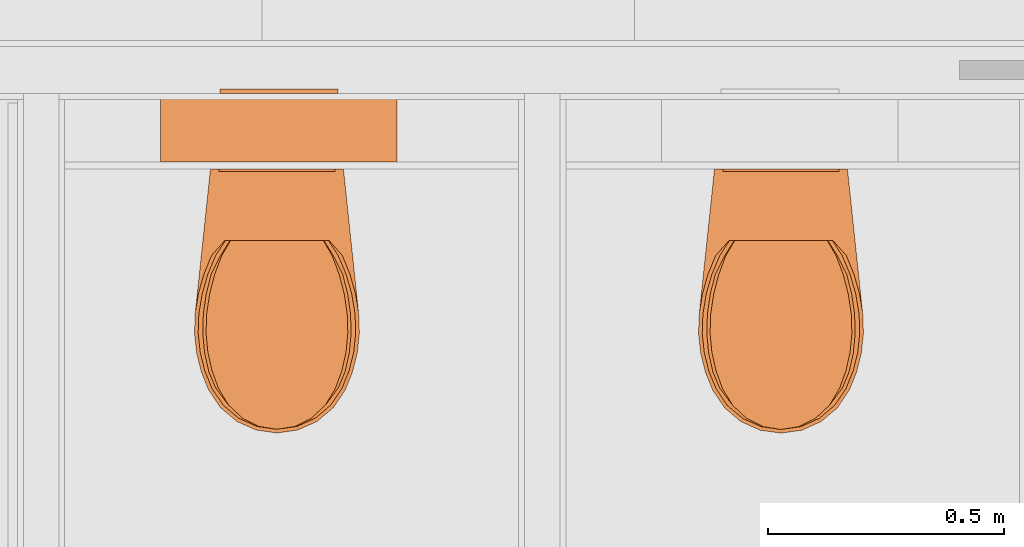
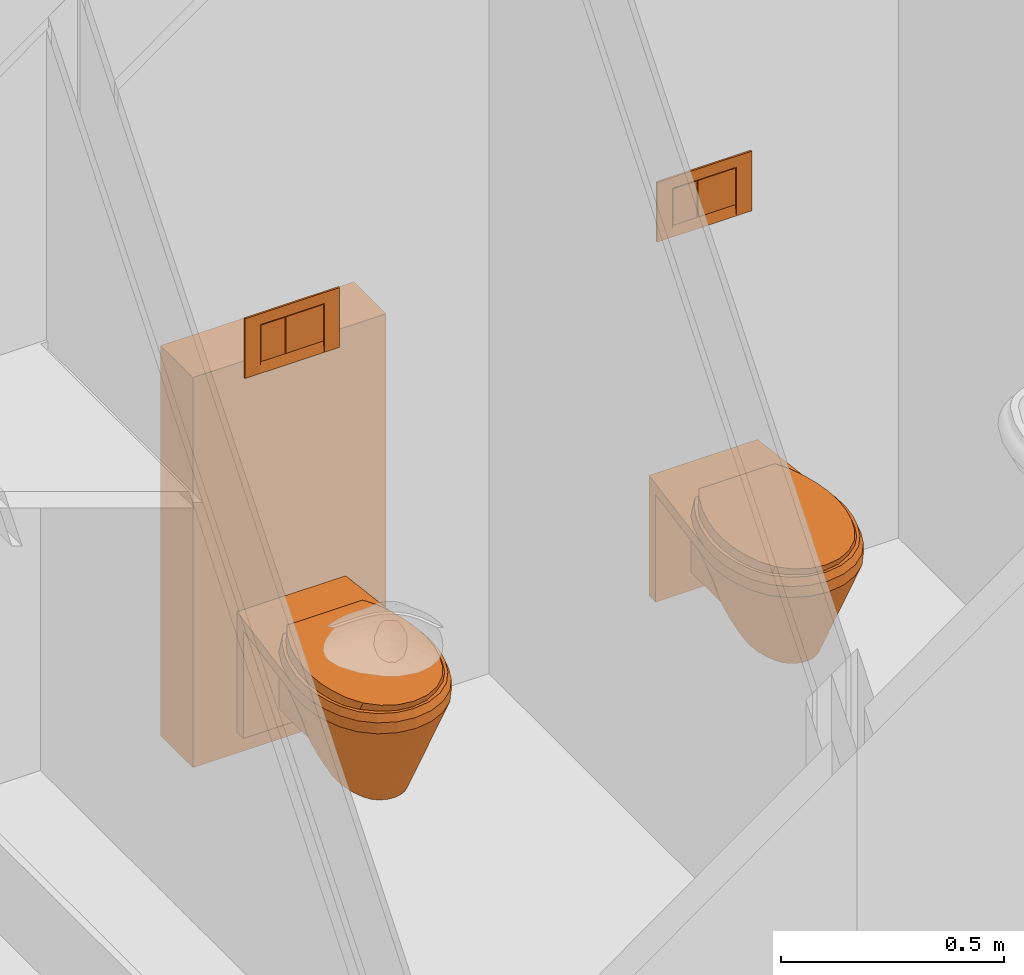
# One storey, part 110 of 167: 3 proxies.
"""IFC2X3 building model written with IfcOpenShell, lengths in millimetres."""

from ifc_helpers import new_model, entity, si_unit, converted_unit, derived_unit, money_unit, direction, frame, origin_with_axes, place, context, subcontext, project, spatial, open_shell, faceted_brep, surface_model, source, transform, mapped, type_object, type_shapes, element, save


model = new_model("IFC2X3")

# Units and contexts
model_context = context("Model", 3, precision=0.01, world=origin_with_axes(), true_north=direction((0.0, 1.0)))
plan_context = context("Plan", 3, precision=0.01, world=origin_with_axes(), true_north=direction((0.0, 1.0)))
body_context = subcontext(model_context, "Body", "Model", "MODEL_VIEW")
ifc_project = project(units=[si_unit("LENGTHUNIT", "METRE", prefix="MILLI"), si_unit("AREAUNIT", "SQUARE_METRE"), si_unit("VOLUMEUNIT", "CUBIC_METRE"), converted_unit("PLANEANGLEUNIT", "DEGREE", entity("IfcPlaneAngleMeasure", 0.0174532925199), si_unit("PLANEANGLEUNIT", "RADIAN"), dimensions=[0, 0, 0, 0, 0, 0, 0]), si_unit("SOLIDANGLEUNIT", "STERADIAN"), money_unit("EUR"), converted_unit("TIMEUNIT", "Year", entity("IfcTimeMeasure", 31556926.0), si_unit("TIMEUNIT", "SECOND"), dimensions=[0, 0, 1, 0, 0, 0, 0]), si_unit("MASSUNIT", "GRAM", prefix="KILO"), si_unit("THERMODYNAMICTEMPERATUREUNIT", "DEGREE_CELSIUS"), si_unit("LUMINOUSINTENSITYUNIT", "LUMEN"), si_unit("ENERGYUNIT", "JOULE", prefix="MEGA"), derived_unit("THERMALCONDUCTANCEUNIT", [(si_unit("POWERUNIT", "WATT"), 1), (si_unit("LENGTHUNIT", "METRE"), -1), (si_unit("THERMODYNAMICTEMPERATUREUNIT", "KELVIN"), -1)]), derived_unit("SPECIFICHEATCAPACITYUNIT", [(si_unit("ENERGYUNIT", "JOULE"), 1), (si_unit("MASSUNIT", "GRAM", prefix="KILO"), -1), (si_unit("THERMODYNAMICTEMPERATUREUNIT", "KELVIN"), -1)]), derived_unit("MASSDENSITYUNIT", [(si_unit("MASSUNIT", "GRAM", prefix="KILO"), 1), (si_unit("VOLUMEUNIT", "CUBIC_METRE"), -1)])], contexts=[model_context, plan_context])

# Site, building, storey
site_placement = place(None, origin_with_axes())
site = spatial("IfcSite", under=ifc_project, at=site_placement, Name="Site", CompositionType="ELEMENT")
building_placement = place(site_placement, origin_with_axes())
building = spatial("IfcBuilding", under=site, at=building_placement, Name="Naam gebouw", CompositionType="ELEMENT")
storey_placement = place(building_placement, origin_with_axes())
storey = spatial("IfcBuildingStorey", under=building, at=storey_placement, Name="Begane grond", CompositionType="ELEMENT", Elevation=0.0)

# Proxies
building_element_proxy_type_1 = type_object("IfcBuildingElementProxyType", Name="Toilet 24", PredefinedType="NOTDEFINED")
shared_shape_1 = source(origin_with_axes(), body_context, "Body", "SurfaceModel", [
    faceted_brep([(-141.028331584, -29.3186537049, 70.0), (-141.028331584, 0.494905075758, 70.0), (141.028331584, 0.494905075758, 70.0), (141.028331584, -29.3186537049, 70.0), (-141.028331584, -29.3186537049, 370.0), (-141.028331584, 0.494905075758, 370.0), (141.028331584, 0.494905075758, 370.0), (141.028331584, -29.3186537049, 370.0)], [[[0, 1, 2, 3]], [[0, 4, 5, 1]], [[1, 5, 6, 2]], [[2, 6, 7, 3]], [[3, 7, 4, 0]], [[7, 6, 5, 4]]]),
    faceted_brep([(0.0, -70.8916738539, 370.0), (29.2232249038, -74.3401088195, 370.0), (48.9681706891, -81.5929972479, 370.0), (48.9681706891, -29.3186537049, 370.0), (-48.9681706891, -29.3186537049, 370.0), (-48.9681706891, -81.5929972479, 370.0), (-29.2232249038, -74.3401088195, 370.0), (0.0, -102.688828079, 120.0), (13.7012941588, -104.950683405, 120.0), (48.9681706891, -88.2509938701, 324.161469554), (48.9681706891, -91.4215326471, 305.928931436), (48.9681706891, -107.087637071, 223.462569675), (48.9681706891, -115.60239829, 192.796015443), (48.9681706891, -121.830119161, 170.496419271), (48.9681706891, -132.92940311, 150.834999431), (48.9681706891, -136.95889879, 141.313409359), (48.9681706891, -162.865413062, 120.0), (48.9681706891, -29.3186537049, 120.0), (-48.9681706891, -29.3186537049, 120.0), (-48.9681706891, -132.92940311, 150.834999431), (-48.9681706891, -128.161443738, 166.474594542), (-48.9681706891, -115.60239829, 192.796015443), (-48.9681706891, -98.3265451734, 277.009109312), (-48.9681706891, -91.4215326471, 305.928931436), (-48.9681706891, -162.865413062, 120.0), (-25.9903462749, -111.50270984, 120.0), (-13.7012941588, -104.950683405, 120.0), (25.9903462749, -111.50270984, 120.0), (35.5988807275, -121.669133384, 120.0), (41.5367611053, -134.401510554, 120.0), (-35.5988807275, -121.669133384, 120.0), (-41.5367611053, -134.401510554, 120.0)], [[[0, 1, 2, 3, 4, 5, 6]], [[0, 7, 1]], [[1, 8, 9, 2]], [[9, 10, 11, 12, 13, 14, 15, 16, 17, 3, 2]], [[4, 3, 17, 18]], [[19, 20, 21, 22, 23, 5, 4, 18, 24]], [[23, 25, 6, 5]], [[6, 26, 0]], [[7, 0, 26]], [[8, 1, 7]], [[27, 10, 9, 8]], [[10, 27, 11]], [[28, 12, 11, 27]], [[12, 28, 13]], [[29, 14, 13, 28]], [[14, 29, 15]], [[16, 15, 29]], [[29, 28, 27, 8, 7, 26, 25, 30, 31, 24, 18, 17, 16]], [[19, 31, 20]], [[20, 31, 30, 21]], [[21, 30, 22]], [[22, 30, 25, 23]], [[24, 31, 19]], [[26, 6, 25]]]),
    surface_model("IfcShellBasedSurfaceModel", [(-17.6912207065, -459.020482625, 120.0), (-85.1820916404, -535.368037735, 370.0), (-34.0279818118, -451.688334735, 120.0), (-44.2868135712, -553.722258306, 370.0), (-119.554809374, -506.343544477, 370.0), (-47.758656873, -440.093841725, 120.0), (-57.8323889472, -425.125447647, 120.0), (-68.2302903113, -399.418209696, 120.0), (-74.9438265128, -372.478677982, 120.0), (-77.8388247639, -344.845484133, 120.0), (-76.8575026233, -317.0761417, 120.0), (-70.9734872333, -270.86512559, 120.0), (-63.1150752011, -224.958207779, 120.0), (-53.2959776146, -179.441847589, 120.0), (-41.5367611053, -134.401510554, 120.0), (-35.5988807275, -121.669133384, 120.0), (-25.9903462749, -111.50270984, 120.0), (-13.7012941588, -104.950683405, 120.0), (0.0, -102.688828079, 120.0), (13.7012941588, -104.950683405, 120.0), (25.9903462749, -111.50270984, 120.0), (35.5988807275, -121.669133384, 120.0), (41.5367611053, -134.401510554, 120.0), (53.2959776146, -179.441847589, 120.0), (63.1150752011, -224.958207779, 120.0), (70.9734872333, -270.86512559, 120.0), (76.8575026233, -317.0761417, 120.0), (77.8388247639, -344.846477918, 120.0), (74.9438265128, -372.478677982, 120.0), (68.2302903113, -399.418209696, 120.0), (57.8323889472, -425.125447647, 120.0), (47.758656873, -440.093841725, 120.0), (34.0279818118, -451.688334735, 120.0), (17.6912207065, -459.020482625, 120.0), (0.0, -461.527802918, 120.0), (-144.773417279, -468.871876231, 370.0), (-160.390346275, -430.260336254, 370.0), (-170.473871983, -389.797374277, 370.0), (-174.82224554, -348.294912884, 370.0), (-173.347324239, -306.584750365, 370.0), (-164.811192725, -257.296974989, 370.0), (-149.839664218, -209.61416286, 370.0), (-128.705001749, -164.398919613, 370.0), (-101.788177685, -122.466149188, 370.0), (-81.512416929, -100.834424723, 370.0), (-56.8863238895, -84.5015634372, 370.0), (-29.2232249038, -74.3401088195, 370.0), (0.0, -70.8916738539, 370.0), (29.2232249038, -74.3401088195, 370.0), (56.8863238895, -84.5015634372, 370.0), (81.512416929, -100.834424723, 370.0), (101.788177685, -122.466149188, 370.0), (128.705001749, -164.398919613, 370.0), (149.839664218, -209.61416286, 370.0), (164.811192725, -257.295981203, 370.0), (173.347324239, -306.584750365, 370.0), (174.82224554, -348.294912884, 370.0), (170.473871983, -389.797374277, 370.0), (160.389366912, -430.260336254, 370.0), (144.773417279, -468.871876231, 370.0), (119.554809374, -506.343544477, 370.0), (85.1820916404, -535.368037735, 370.0), (44.2868135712, -553.722258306, 370.0), (0.0, -560.0, 370.0)], [open_shell([[[0, 1, 2]], [[0, 3, 1]], [[2, 1, 4]], [[0, 2, 5, 6, 7, 8, 9, 10, 11, 12, 13, 14, 15, 16, 17, 18, 19, 20, 21, 22, 23, 24, 25, 26, 27, 28, 29, 30, 31, 32, 33, 34]], [[34, 3, 0]], [[2, 4, 5]], [[5, 35, 6]], [[6, 36, 7]], [[7, 37, 8]], [[8, 38, 9]], [[9, 39, 10]], [[10, 40, 11]], [[11, 41, 12]], [[12, 42, 13]], [[13, 43, 14]], [[14, 44, 15]], [[15, 45, 16]], [[16, 46, 17]], [[17, 47, 18]], [[18, 48, 19]], [[19, 49, 20]], [[20, 50, 21]], [[21, 51, 22]], [[22, 52, 23]], [[23, 53, 24]], [[24, 54, 25]], [[25, 55, 26]], [[26, 56, 27]], [[27, 57, 28]], [[28, 58, 29]], [[29, 59, 30]], [[30, 60, 31]], [[31, 61, 32]], [[32, 62, 33]], [[33, 63, 34]], [[34, 63, 3]], [[5, 4, 35]], [[6, 35, 36]], [[7, 36, 37]], [[8, 37, 38]], [[9, 38, 39]], [[10, 39, 40]], [[11, 40, 41]], [[12, 41, 42]], [[13, 42, 43]], [[14, 43, 44]], [[15, 44, 45]], [[16, 45, 46]], [[17, 46, 47]], [[18, 47, 48]], [[19, 48, 49]], [[20, 49, 50]], [[21, 50, 51]], [[22, 51, 52]], [[23, 52, 53]], [[24, 53, 54]], [[25, 54, 55]], [[26, 55, 56]], [[27, 56, 57]], [[28, 57, 58]], [[29, 58, 59]], [[30, 59, 60]], [[31, 60, 61]], [[32, 61, 62]], [[33, 62, 63]]])]),
    faceted_brep([(173.347324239, -306.584750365, 370.0), (173.347324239, -306.584750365, 400.0), (174.82224554, -348.294912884, 400.0), (174.82224554, -348.294912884, 370.0), (140.973487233, 0.0, 370.0), (140.973487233, 0.0, 400.0), (-140.97544596, 0.0, 400.0), (-173.347324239, -306.584750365, 400.0), (-174.82224554, -348.294912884, 400.0), (-170.473871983, -389.797374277, 400.0), (-160.390346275, -430.260336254, 400.0), (-144.773417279, -468.871876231, 400.0), (-119.554809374, -506.343544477, 400.0), (-85.1820916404, -535.368037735, 400.0), (-44.2868135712, -553.722258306, 400.0), (0.0, -560.0, 400.0), (44.2868135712, -553.722258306, 400.0), (85.1820916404, -535.368037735, 400.0), (119.554809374, -506.343544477, 400.0), (144.773417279, -468.871876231, 400.0), (160.389366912, -430.260336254, 400.0), (170.473871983, -389.797374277, 400.0), (-144.502133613, -309.721136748, 400.0), (-129.388597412, -258.283803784, 400.0), (-97.1352221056, -215.741842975, 400.0), (-52.0130115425, -187.731010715, 400.0), (0.0, -177.963095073, 400.0), (52.0130115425, -187.731010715, 400.0), (97.1352221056, -215.741842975, 400.0), (129.388597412, -258.283803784, 400.0), (144.502133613, -309.721136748, 400.0), (145.829171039, -347.26336375, 400.0), (141.914655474, -384.619752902, 400.0), (132.838894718, -421.039996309, 400.0), (118.78209164, -455.793661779, 400.0), (98.0920601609, -486.538397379, 400.0), (69.8903112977, -510.352474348, 400.0), (36.3363413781, -525.411302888, 400.0), (0.0, -530.56209206, 400.0), (-36.3363413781, -525.411302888, 400.0), (-69.8903112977, -510.352474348, 400.0), (-98.0920601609, -486.538397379, 400.0), (-118.78209164, -455.793661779, 400.0), (-132.838894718, -421.039996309, 400.0), (-141.914655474, -384.619752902, 400.0), (-145.829171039, -347.26336375, 400.0), (170.473871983, -389.797374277, 370.0), (160.389366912, -430.260336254, 370.0), (144.773417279, -468.871876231, 370.0), (119.554809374, -506.343544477, 370.0), (85.1820916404, -535.368037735, 370.0), (44.2868135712, -553.722258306, 370.0), (0.0, -560.0, 370.0), (-44.2868135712, -553.722258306, 370.0), (-85.1820916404, -535.368037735, 370.0), (-119.554809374, -506.343544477, 370.0), (-144.773417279, -468.871876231, 370.0), (-160.390346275, -430.260336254, 370.0), (-170.473871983, -389.797374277, 370.0), (-174.82224554, -348.294912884, 370.0), (-173.347324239, -306.584750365, 370.0), (-140.97544596, 0.0, 370.0), (-144.502133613, -309.721136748, 370.0), (-145.829171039, -347.26336375, 370.0), (-141.914655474, -384.619752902, 370.0), (-132.838894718, -421.039996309, 370.0), (-118.78209164, -455.793661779, 370.0), (-98.0920601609, -486.538397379, 370.0), (-69.8903112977, -510.352474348, 370.0), (-36.3363413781, -525.411302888, 370.0), (0.0, -530.56209206, 370.0), (36.3363413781, -525.411302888, 370.0), (69.8903112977, -510.352474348, 370.0), (98.0920601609, -486.538397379, 370.0), (118.78209164, -455.793661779, 370.0), (132.838894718, -421.039996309, 370.0), (141.914655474, -384.619752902, 370.0), (145.829171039, -347.26336375, 370.0), (144.502133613, -309.721136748, 370.0), (129.388597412, -258.283803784, 370.0), (97.1352221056, -215.741842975, 370.0), (52.0130115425, -187.731010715, 370.0), (0.0, -177.963095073, 370.0), (-52.0130115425, -187.731010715, 370.0), (-97.1352221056, -215.741842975, 370.0), (-129.388597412, -258.283803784, 370.0)], [[[0, 1, 2, 3]], [[4, 5, 1, 0]], [[1, 5, 6, 7, 8, 9, 10, 11, 12, 13, 14, 15, 16, 17, 18, 19, 20, 21, 2], [22, 23, 24, 25, 26, 27, 28, 29, 30, 31, 32, 33, 34, 35, 36, 37, 38, 39, 40, 41, 42, 43, 44, 45]], [[3, 2, 21, 46]], [[0, 3, 46, 47, 48, 49, 50, 51, 52, 53, 54, 55, 56, 57, 58, 59, 60, 61, 4], [62, 63, 64, 65, 66, 67, 68, 69, 70, 71, 72, 73, 74, 75, 76, 77, 78, 79, 80, 81, 82, 83, 84, 85]], [[61, 6, 5, 4]], [[60, 7, 6, 61]], [[59, 8, 7, 60]], [[58, 9, 8, 59]], [[57, 10, 9, 58]], [[56, 11, 10, 57]], [[55, 12, 11, 56]], [[54, 13, 12, 55]], [[53, 14, 13, 54]], [[52, 15, 14, 53]], [[51, 16, 15, 52]], [[50, 17, 16, 51]], [[49, 18, 17, 50]], [[48, 19, 18, 49]], [[47, 20, 19, 48]], [[46, 21, 20, 47]], [[85, 23, 22, 62]], [[84, 24, 23, 85]], [[83, 25, 24, 84]], [[82, 26, 25, 83]], [[81, 27, 26, 82]], [[80, 28, 27, 81]], [[79, 29, 28, 80]], [[78, 30, 29, 79]], [[77, 31, 30, 78]], [[76, 32, 31, 77]], [[75, 33, 32, 76]], [[74, 34, 33, 75]], [[73, 35, 34, 74]], [[72, 36, 35, 73]], [[71, 37, 36, 72]], [[70, 38, 37, 71]], [[69, 39, 38, 70]], [[68, 40, 39, 69]], [[67, 41, 40, 68]], [[66, 42, 41, 67]], [[65, 43, 42, 66]], [[64, 44, 43, 65]], [[63, 45, 44, 64]], [[62, 22, 45, 63]]]),
    surface_model("IfcShellBasedSurfaceModel", [(-16.8066596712, -465.732925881, 220.0), (-80.9229870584, -525.284018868, 370.0), (-32.3265827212, -460.013850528, 220.0), (-42.0724728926, -539.600310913, 370.0), (-113.577068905, -502.644914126, 370.0), (-45.3707240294, -450.97014598, 220.0), (-54.9407694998, -439.294798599, 220.0), (-64.8187757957, -419.243152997, 220.0), (-71.1966351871, -398.23031826, 220.0), (-73.9468835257, -376.676427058, 220.0), (-73.0146274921, -355.01633996, 220.0), (-67.4248128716, -318.971747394, 220.0), (-59.9593214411, -283.164351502, 220.0), (-50.6311787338, -247.661590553, 220.0), (-39.45992305, -212.530127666, 220.0), (-33.8189366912, -202.598873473, 220.0), (-24.6908289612, -194.669063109, 220.0), (-13.0162294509, -189.55848249, 220.0), (0.0, -187.794235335, 220.0), (13.0162294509, -189.55848249, 220.0), (24.6908289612, -194.669063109, 220.0), (33.8189366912, -202.598873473, 220.0), (39.45992305, -212.530127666, 220.0), (50.6311787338, -247.661590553, 220.0), (59.9593214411, -283.164351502, 220.0), (67.4248128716, -318.971747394, 220.0), (73.0146274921, -355.01633996, 220.0), (73.9468835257, -376.67720221, 220.0), (71.1966351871, -398.23031826, 220.0), (64.8187757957, -419.243152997, 220.0), (54.9407694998, -439.294798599, 220.0), (45.3707240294, -450.97014598, 220.0), (32.3265827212, -460.013850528, 220.0), (16.8066596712, -465.732925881, 220.0), (0.0, -467.68863571, 220.0), (-137.534746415, -473.417012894, 370.0), (-152.370828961, -443.300011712, 370.0), (-161.950178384, -411.73890137, 370.0), (-166.081133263, -379.366981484, 370.0), (-164.679958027, -346.833054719, 370.0), (-156.570633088, -308.388589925, 370.0), (-142.347681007, -271.195996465, 370.0), (-122.269751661, -235.928106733, 370.0), (-96.6987688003, -203.220545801, 370.0), (-77.4367960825, -186.347800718, 370.0), (-54.042007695, -173.608168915, 370.0), (-27.7620636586, -165.682234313, 370.0), (0.0, -162.99245504, 370.0), (27.7620636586, -165.682234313, 370.0), (54.042007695, -173.608168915, 370.0), (77.4367960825, -186.347800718, 370.0), (96.6987688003, -203.220545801, 370.0), (122.269751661, -235.928106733, 370.0), (142.347681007, -271.195996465, 370.0), (156.570633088, -308.387814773, 370.0), (164.679958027, -346.833054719, 370.0), (166.081133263, -379.366981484, 370.0), (161.950178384, -411.73890137, 370.0), (152.369898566, -443.300011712, 370.0), (137.534746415, -473.417012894, 370.0), (113.577068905, -502.644914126, 370.0), (80.9229870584, -525.284018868, 370.0), (42.0724728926, -539.600310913, 370.0), (0.0, -544.496949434, 370.0)], [open_shell([[[0, 1, 2]], [[0, 3, 1]], [[2, 1, 4]], [[0, 2, 5, 6, 7, 8, 9, 10, 11, 12, 13, 14, 15, 16, 17, 18, 19, 20, 21, 22, 23, 24, 25, 26, 27, 28, 29, 30, 31, 32, 33, 34]], [[34, 3, 0]], [[2, 4, 5]], [[5, 35, 6]], [[6, 36, 7]], [[7, 37, 8]], [[8, 38, 9]], [[9, 39, 10]], [[10, 40, 11]], [[11, 41, 12]], [[12, 42, 13]], [[13, 43, 14]], [[14, 44, 15]], [[15, 45, 16]], [[16, 46, 17]], [[17, 47, 18]], [[18, 48, 19]], [[19, 49, 20]], [[20, 50, 21]], [[21, 51, 22]], [[22, 52, 23]], [[23, 53, 24]], [[24, 54, 25]], [[25, 55, 26]], [[26, 56, 27]], [[27, 57, 28]], [[28, 58, 29]], [[29, 59, 30]], [[30, 60, 31]], [[31, 61, 32]], [[32, 62, 33]], [[33, 63, 34]], [[34, 63, 3]], [[5, 4, 35]], [[6, 35, 36]], [[7, 36, 37]], [[8, 37, 38]], [[9, 38, 39]], [[10, 39, 40]], [[11, 40, 41]], [[12, 41, 42]], [[13, 42, 43]], [[14, 43, 44]], [[15, 44, 45]], [[16, 45, 46]], [[17, 46, 47]], [[18, 47, 48]], [[19, 48, 49]], [[20, 49, 50]], [[21, 50, 51]], [[22, 51, 52]], [[23, 52, 53]], [[24, 53, 54]], [[25, 54, 55]], [[26, 55, 56]], [[27, 56, 57]], [[28, 57, 58]], [[29, 58, 59]], [[30, 59, 60]], [[31, 60, 61]], [[32, 61, 62]], [[33, 62, 63]]])]),
    faceted_brep([(0.0, -560.0, 400.0), (-44.2868135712, -553.722258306, 400.0), (-85.1820916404, -535.368037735, 400.0), (-119.554809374, -506.343544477, 400.0), (-144.773417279, -468.871876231, 400.0), (-160.390346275, -430.260336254, 400.0), (-170.473871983, -389.797374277, 400.0), (-174.82224554, -348.294912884, 400.0), (-173.347324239, -306.584750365, 400.0), (-166.466316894, -264.426390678, 400.0), (-154.871633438, -223.344300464, 400.0), (-138.715075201, -183.881086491, 400.0), (-110.192657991, -151.316352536, 400.0), (110.192657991, -151.316352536, 400.0), (138.715075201, -183.881086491, 400.0), (154.871633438, -223.344300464, 400.0), (166.466316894, -264.426390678, 400.0), (173.347324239, -306.584750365, 400.0), (174.82224554, -348.294912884, 400.0), (170.473871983, -389.797374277, 400.0), (160.389366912, -430.260336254, 400.0), (144.773417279, -468.871876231, 400.0), (119.554809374, -506.343544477, 400.0), (85.1820916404, -535.368037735, 400.0), (44.2868135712, -553.722258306, 400.0), (-87.0768965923, -411.996361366, 400.0), (-76.4888004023, -438.077570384, 400.0), (-62.0685687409, -459.426212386, 400.0), (-44.2610983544, -474.406756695, 400.0), (-23.0257994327, -483.902301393, 400.0), (0.0, -487.154466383, 400.0), (23.0257994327, -483.902301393, 400.0), (44.2610983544, -474.406756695, 400.0), (62.0685687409, -459.426212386, 400.0), (76.4888004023, -438.077570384, 400.0), (87.0768965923, -411.996361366, 400.0), (94.5108554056, -382.276303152, 400.0), (97.7160649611, -351.79832554, 400.0), (96.6142529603, -320.742930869, 400.0), (90.9929409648, -286.794273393, 400.0), (81.3289539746, -253.338422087, 400.0), (68.7541287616, -223.466323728, 400.0), (-68.7544855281, -223.466323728, 400.0), (-81.3288631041, -253.338107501, 400.0), (-90.9929409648, -286.794273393, 400.0), (-96.6142529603, -320.742930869, 400.0), (-97.7160649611, -351.79832554, 400.0), (-94.5108554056, -382.276303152, 400.0), (-42.1518013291, -546.118807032, 420.0), (-81.0756208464, -528.649055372, 420.0), (-113.791255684, -501.024805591, 420.0), (-137.792514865, -465.359839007, 420.0), (-152.99027632, -427.78481709, 420.0), (-162.803497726, -388.407068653, 420.0), (-167.035327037, -348.017646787, 420.0), (-165.600559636, -307.427480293, 420.0), (-158.59027632, -264.933221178, 420.0), (-146.688072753, -223.575852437, 420.0), (-130.061420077, -183.930775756, 420.0), (-108.940468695, -151.316352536, 420.0), (108.940468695, -151.316352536, 420.0), (130.061420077, -183.931769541, 420.0), (146.688072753, -223.575852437, 420.0), (158.59027632, -264.933221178, 420.0), (165.600559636, -307.427480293, 420.0), (167.035327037, -348.017646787, 420.0), (162.803497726, -388.407068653, 420.0), (152.99027632, -427.78481709, 420.0), (137.792514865, -465.359839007, 420.0), (113.791255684, -501.024805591, 420.0), (81.0756208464, -528.649055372, 420.0), (42.1518013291, -546.118807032, 420.0), (0.0, -552.094437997, 420.0), (-76.4888004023, -438.077570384, 420.0), (-87.0768965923, -411.996361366, 420.0), (-62.0685687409, -459.426212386, 420.0), (-44.2610983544, -474.406756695, 420.0), (-23.0257994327, -483.902301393, 420.0), (0.0, -487.154466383, 420.0), (23.0257994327, -483.902301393, 420.0), (44.2610983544, -474.406756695, 420.0), (62.0685687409, -459.426212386, 420.0), (76.4888004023, -438.077570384, 420.0), (87.0768965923, -411.996361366, 420.0), (94.5108554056, -382.276303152, 420.0), (97.7160649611, -351.79832554, 420.0), (96.6142529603, -320.742930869, 420.0), (90.9929409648, -286.794273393, 420.0), (81.3289539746, -253.338422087, 420.0), (68.7541287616, -223.466323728, 420.0), (-68.7544855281, -223.466323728, 420.0), (-81.3288631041, -253.338107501, 420.0), (-90.9929409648, -286.794273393, 420.0), (-96.6142529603, -320.742930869, 420.0), (-97.7160649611, -351.79832554, 420.0), (-94.5108554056, -382.276303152, 420.0)], [[[0, 1, 2, 3, 4, 5, 6, 7, 8, 9, 10, 11, 12, 13, 14, 15, 16, 17, 18, 19, 20, 21, 22, 23, 24], [25, 26, 27, 28, 29, 30, 31, 32, 33, 34, 35, 36, 37, 38, 39, 40, 41, 42, 43, 44, 45, 46, 47]], [[0, 48, 1]], [[1, 49, 2]], [[2, 50, 3]], [[3, 51, 4]], [[5, 4, 51, 52]], [[5, 53, 6]], [[7, 6, 53, 54]], [[7, 55, 8]], [[8, 56, 9]], [[9, 57, 10]], [[10, 58, 11]], [[11, 59, 12]], [[13, 12, 59, 60]], [[13, 61, 14]], [[14, 62, 15]], [[15, 63, 16]], [[16, 64, 17]], [[17, 65, 18]], [[19, 18, 65, 66]], [[19, 67, 20]], [[20, 68, 21]], [[21, 69, 22]], [[22, 70, 23]], [[23, 71, 24]], [[24, 72, 0]], [[73, 26, 25, 74]], [[75, 27, 26, 73]], [[76, 28, 27, 75]], [[77, 29, 28, 76]], [[78, 30, 29, 77]], [[79, 31, 30, 78]], [[80, 32, 31, 79]], [[81, 33, 32, 80]], [[82, 34, 33, 81]], [[83, 35, 34, 82]], [[84, 36, 35, 83]], [[85, 37, 36, 84]], [[86, 38, 37, 85]], [[87, 39, 38, 86]], [[88, 40, 39, 87]], [[89, 41, 40, 88]], [[90, 42, 41, 89]], [[91, 43, 42, 90]], [[92, 44, 43, 91]], [[93, 45, 44, 92]], [[94, 46, 45, 93]], [[95, 47, 46, 94]], [[74, 25, 47, 95]], [[0, 72, 48]], [[1, 48, 49]], [[2, 49, 50]], [[3, 50, 51]], [[66, 65, 64, 63, 62, 61, 60, 59, 58, 57, 56, 55, 54, 53, 52, 51, 50, 49, 48, 72, 71, 70, 69, 68, 67], [92, 91, 90, 89, 88, 87, 86, 85, 84, 83, 82, 81, 80, 79, 78, 77, 76, 75, 73, 74, 95, 94, 93]], [[5, 52, 53]], [[7, 54, 55]], [[8, 55, 56]], [[9, 56, 57]], [[10, 57, 58]], [[11, 58, 59]], [[13, 60, 61]], [[14, 61, 62]], [[15, 62, 63]], [[16, 63, 64]], [[17, 64, 65]], [[19, 66, 67]], [[20, 67, 68]], [[21, 68, 69]], [[22, 69, 70]], [[23, 70, 71]], [[24, 71, 72]]]),
    faceted_brep([(107.599328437, -494.418120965, 420.0), (72.9680587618, -528.649055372, 440.0), (76.6638824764, -519.467473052, 420.0), (102.412130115, -501.024805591, 440.0), (37.9366211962, -546.118807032, 440.0), (39.8581322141, -538.815478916, 420.0), (0.0, -545.09322061, 420.0), (-39.8581322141, -538.815478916, 420.0), (-76.6638824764, -519.467473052, 420.0), (-107.599328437, -494.418120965, 420.0), (-130.296075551, -463.902949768, 420.0), (-144.351311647, -430.260336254, 420.0), (-153.426484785, -389.797374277, 420.0), (-157.340020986, -348.294912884, 420.0), (-156.012591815, -306.584750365, 420.0), (-149.819685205, -264.426390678, 420.0), (-139.384470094, -223.344300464, 420.0), (-119.555005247, -183.881086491, 420.0), (-99.1733921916, -151.316352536, 420.0), (99.1733921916, -151.316352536, 420.0), (119.555005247, -183.881086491, 420.0), (139.384470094, -223.344300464, 420.0), (149.819685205, -264.426390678, 420.0), (156.012591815, -306.584750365, 420.0), (157.340020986, -348.294912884, 420.0), (153.426484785, -389.797374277, 420.0), (144.35043022, -430.260336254, 420.0), (130.296075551, -463.902949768, 420.0), (124.013263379, -465.359839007, 440.0), (137.691248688, -427.78481709, 440.0), (146.523147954, -388.407068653, 440.0), (150.331794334, -348.017646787, 440.0), (149.040503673, -307.427480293, 440.0), (142.731248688, -264.933221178, 440.0), (132.019265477, -223.575852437, 440.0), (117.055278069, -183.931769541, 440.0), (98.0464218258, -151.316352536, 440.0), (-98.0464218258, -151.316352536, 440.0), (-117.055278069, -183.930775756, 440.0), (-132.019265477, -223.575852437, 440.0), (-142.731248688, -264.933221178, 440.0), (-149.040503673, -307.427480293, 440.0), (-150.331794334, -348.017646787, 440.0), (-146.523147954, -388.407068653, 440.0), (-137.691248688, -427.78481709, 440.0), (-124.013263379, -465.359839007, 440.0), (-102.412130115, -501.024805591, 440.0), (-72.9680587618, -528.649055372, 440.0), (-37.9366211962, -546.118807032, 440.0), (0.0, -552.094437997, 440.0)], [[[0, 1, 2]], [[0, 3, 1]], [[2, 1, 4]], [[0, 2, 5, 6, 7, 8, 9, 10, 11, 12, 13, 14, 15, 16, 17, 18, 19, 20, 21, 22, 23, 24, 25, 26, 27]], [[27, 3, 0]], [[3, 28, 29, 30, 31, 32, 33, 34, 35, 36, 37, 38, 39, 40, 41, 42, 43, 44, 45, 46, 47, 48, 49, 4, 1]], [[2, 4, 5]], [[5, 49, 6]], [[6, 48, 7]], [[7, 47, 8]], [[8, 46, 9]], [[9, 45, 10]], [[10, 44, 11]], [[11, 43, 12]], [[12, 43, 42, 13]], [[13, 41, 14]], [[14, 40, 15]], [[15, 39, 16]], [[16, 38, 17]], [[17, 37, 18]], [[18, 37, 36, 19]], [[19, 35, 20]], [[20, 34, 21]], [[21, 33, 22]], [[22, 32, 23]], [[23, 31, 24]], [[24, 31, 30, 25]], [[25, 29, 26]], [[26, 28, 27]], [[27, 28, 3]], [[26, 29, 28]], [[25, 30, 29]], [[23, 32, 31]], [[22, 33, 32]], [[21, 34, 33]], [[20, 35, 34]], [[19, 36, 35]], [[17, 38, 37]], [[16, 39, 38]], [[15, 40, 39]], [[14, 41, 40]], [[13, 42, 41]], [[11, 44, 43]], [[10, 45, 44]], [[9, 46, 45]], [[8, 47, 46]], [[7, 48, 47]], [[6, 49, 48]], [[5, 4, 49]]]),
    faceted_brep([(83.0, 0.0, 1036.0), (83.0, -5.0, 1036.0), (83.0, -5.0, 1170.0), (83.0, 0.0, 1170.0), (123.0, 0.0, 1036.0), (123.0, -5.0, 1036.0), (123.0, -5.0, 1200.0), (-123.0, -5.0, 1200.0), (-123.0, -5.0, 1036.0), (-83.0, -5.0, 1036.0), (-83.0, -5.0, 1170.0), (-83.0, 0.0, 1170.0), (-83.0, 0.0, 1036.0), (-123.0, 0.0, 1036.0), (-123.0, 0.0, 1200.0), (123.0, 0.0, 1200.0)], [[[0, 1, 2, 3]], [[4, 5, 1, 0]], [[1, 5, 6, 7, 8, 9, 10, 2]], [[3, 2, 10, 11]], [[0, 3, 11, 12, 13, 14, 15, 4]], [[15, 6, 5, 4]], [[14, 7, 6, 15]], [[13, 8, 7, 14]], [[12, 9, 8, 13]], [[11, 10, 9, 12]]]),
    faceted_brep([(83.0, 0.0, 1066.0), (-83.0, 0.0, 1066.0), (-83.0, -5.0, 1036.0), (83.0, -5.0, 1036.0), (-83.0, 0.0, 1036.0), (83.0, 0.0, 1036.0)], [[[0, 1, 2, 3]], [[4, 1, 0, 5]], [[1, 4, 2]], [[3, 2, 4, 5]], [[5, 0, 3]]]),
    faceted_brep([(81.0, 0.0, 1068.0), (81.0, -5.0, 1068.0), (-17.0, -5.0, 1068.0), (-17.0, 0.0, 1068.0), (81.0, 0.0, 1168.0), (81.0, -5.0, 1168.0), (-17.0, -5.0, 1168.0), (-17.0, 0.0, 1168.0)], [[[0, 1, 2, 3]], [[4, 5, 1, 0]], [[1, 5, 6, 2]], [[3, 2, 6, 7]], [[0, 3, 7, 4]], [[7, 6, 5, 4]]]),
    faceted_brep([(-19.0, 0.0, 1168.0), (-19.0, -5.0, 1168.0), (-19.0, -5.0, 1068.0), (-19.0, 0.0, 1068.0), (-81.0, 0.0, 1168.0), (-81.0, -5.0, 1168.0), (-81.0, -5.0, 1068.0), (-81.0, 0.0, 1068.0)], [[[0, 1, 2, 3]], [[4, 5, 1, 0]], [[1, 5, 6, 2]], [[3, 2, 6, 7]], [[0, 3, 7, 4]], [[7, 6, 5, 4]]]),
])
type_shapes(building_element_proxy_type_1, [shared_shape_1])
for number, where, z_axis, x_axis in (
    (1, (26493.7750602, 37089.9995084, 0.0), (0.0, 0.0, 1.0), (1.0, 0.0, 0.0)),
    (2, (25425.0000132, 37090.3809106, 0.0), (0.0, 0.0, 1.0), (1.0, 0.0, 0.0)),
):
    element("IfcBuildingElementProxy", number, at=place(storey_placement, frame(where, z_axis=z_axis, x_axis=x_axis)), inside=storey, type_object=building_element_proxy_type_1, Name="__FU - 003", context=body_context, shape_type="MappedRepresentation", body=[
        mapped(shared_shape_1, transform((0.0, 0.0, 0.0))),
    ])
building_element_proxy_type_2 = type_object("IfcBuildingElementProxyType", Name="Inbouwreservoir 24 KM", PredefinedType="NOTDEFINED")
shared_shape_2 = source(origin_with_axes(), body_context, "Body", "SurfaceModel", [
    faceted_brep([(0.0, 0.0, 0.0), (501.499856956, 0.0, 0.0), (501.499856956, 0.0, 1070.0), (0.0, 0.0, 1070.0), (0.0, 145.000476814, 0.0), (501.499856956, 145.000476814, 0.0), (501.499856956, 145.000476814, 1070.0), (0.0, 145.000476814, 1070.0)], [[[0, 1, 2, 3]], [[0, 4, 5, 1]], [[1, 5, 6, 2]], [[3, 2, 6, 7]], [[4, 0, 3, 7]], [[5, 4, 7, 6]]]),
    surface_model("IfcShellBasedSurfaceModel", [(1.0, 0.0, 0.0), (500.499856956, 0.0, 0.0), (500.499856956, 145.000476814, 1070.0), (1.0, 145.000476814, 1070.0)], [open_shell([[[0, 1, 2, 3]]])]),
    surface_model("IfcShellBasedSurfaceModel", [(1.0, 0.0, 1070.0), (500.499856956, 0.0, 1070.0), (500.499856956, 145.000476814, 0.0), (1.0, 145.000476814, 0.0)], [open_shell([[[0, 1, 2, 3]]])]),
    faceted_brep([(375.749928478, -10.0, 820.0), (125.749928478, -10.0, 820.0), (125.749928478, 0.0, 820.0), (375.749928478, 0.0, 820.0), (375.749928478, -10.0, 980.0), (125.749928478, -10.0, 980.0), (125.749928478, 0.0, 980.0), (375.749928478, 0.0, 980.0)], [[[0, 1, 2, 3]], [[1, 0, 4, 5]], [[2, 1, 5, 6]], [[3, 2, 6, 7]], [[0, 3, 7, 4]], [[5, 4, 7, 6]]]),
    surface_model("IfcShellBasedSurfaceModel", [(325.749928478, 0.0, 850.0), (175.749928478, 0.0, 850.0), (175.749928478, 0.0, 950.0), (325.749928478, 0.0, 950.0)], [open_shell([[[0, 1, 2, 3]]])]),
    surface_model("IfcShellBasedSurfaceModel", [(175.749928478, -10.0, 820.0), (325.749928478, -10.0, 820.0), (325.749928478, -10.0, 855.0), (175.749928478, -10.0, 855.0)], [open_shell([[[0, 1, 2, 3]]])]),
    surface_model("IfcShellBasedSurfaceModel", [(175.749928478, -10.0, 855.0), (265.749928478, -10.0, 855.0), (265.749928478, -10.0, 945.0), (175.749928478, -10.0, 945.0)], [open_shell([[[0, 1, 2, 3]]])]),
    surface_model("IfcShellBasedSurfaceModel", [(265.749928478, -10.0, 855.0), (325.749928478, -10.0, 855.0), (325.749928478, -10.0, 945.0), (265.749928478, -10.0, 945.0)], [open_shell([[[0, 1, 2, 3]]])]),
])
type_shapes(building_element_proxy_type_2, [shared_shape_2])
proxy_placement = place(storey_placement, frame((25679.799145, 37250.0, 0.0), z_axis=(0.0, 0.0, 1.0), x_axis=(-0.999999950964, 0.000313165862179, 0.0)))
element("IfcBuildingElementProxy", 3, at=proxy_placement, inside=storey, type_object=building_element_proxy_type_2, Name="__Object-x", context=body_context, shape_type="MappedRepresentation", body=[
    mapped(shared_shape_2, transform((0.0, 0.0, 0.0))),
])

save(model, "model.ifc")
